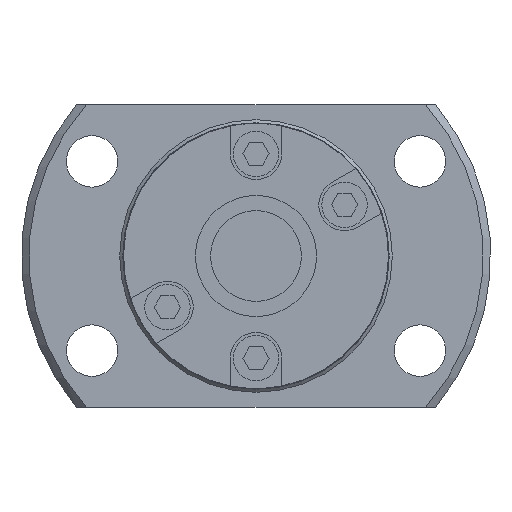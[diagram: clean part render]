
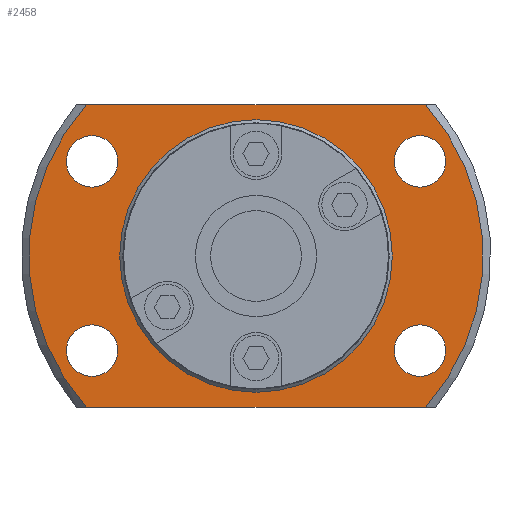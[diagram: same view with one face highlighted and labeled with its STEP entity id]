
A CAD part, left-side view. The second image highlights one B-rep face of the part: STEP entity #2458.
In plain terms, the highlighted planar face has unit normal (-1, 0, 0) as drawn and (1, 0, 0) by its records, which use the part's own axes.
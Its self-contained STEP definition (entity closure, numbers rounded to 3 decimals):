
#128=LINE('',#3848,#354);
#129=LINE('',#3850,#355);
#354=VECTOR('',#3101,1000.);
#355=VECTOR('',#3102,1000.);
#692=ORIENTED_EDGE('',*,*,#1308,.T.);
#693=ORIENTED_EDGE('',*,*,#1282,.T.);
#694=ORIENTED_EDGE('',*,*,#1309,.T.);
#695=ORIENTED_EDGE('',*,*,#1310,.T.);
#696=ORIENTED_EDGE('',*,*,#1311,.F.);
#697=ORIENTED_EDGE('',*,*,#1312,.F.);
#698=ORIENTED_EDGE('',*,*,#1313,.F.);
#699=ORIENTED_EDGE('',*,*,#1314,.F.);
#700=ORIENTED_EDGE('',*,*,#1307,.F.);
#1282=EDGE_CURVE('',#1602,#1604,#1816,.T.);
#1307=EDGE_CURVE('',#1624,#1624,#1829,.T.);
#1308=EDGE_CURVE('',#1625,#1602,#128,.T.);
#1309=EDGE_CURVE('',#1604,#1626,#129,.T.);
#1310=EDGE_CURVE('',#1626,#1625,#1830,.T.);
#1311=EDGE_CURVE('',#1627,#1627,#1831,.T.);
#1312=EDGE_CURVE('',#1628,#1628,#1832,.T.);
#1313=EDGE_CURVE('',#1629,#1629,#1833,.T.);
#1314=EDGE_CURVE('',#1630,#1630,#1834,.T.);
#1602=VERTEX_POINT('',#3778);
#1604=VERTEX_POINT('',#3785);
#1624=VERTEX_POINT('',#3846);
#1625=VERTEX_POINT('',#3849);
#1626=VERTEX_POINT('',#3851);
#1627=VERTEX_POINT('',#3854);
#1628=VERTEX_POINT('',#3856);
#1629=VERTEX_POINT('',#3858);
#1630=VERTEX_POINT('',#3860);
#1816=CIRCLE('',#2677,15.);
#1829=CIRCLE('',#2699,8.85);
#1830=CIRCLE('',#2701,15.);
#1831=CIRCLE('',#2702,1.7);
#1832=CIRCLE('',#2703,1.7);
#1833=CIRCLE('',#2704,1.7);
#1834=CIRCLE('',#2705,1.7);
#1931=EDGE_LOOP('',(#692,#693,#694,#695));
#1932=EDGE_LOOP('',(#696));
#1933=EDGE_LOOP('',(#697));
#1934=EDGE_LOOP('',(#698));
#1935=EDGE_LOOP('',(#699));
#1936=EDGE_LOOP('',(#700));
#2153=FACE_BOUND('',#1931,.T.);
#2154=FACE_BOUND('',#1932,.T.);
#2155=FACE_BOUND('',#1933,.T.);
#2156=FACE_BOUND('',#1934,.T.);
#2157=FACE_BOUND('',#1935,.T.);
#2158=FACE_BOUND('',#1936,.T.);
#2328=PLANE('',#2700);
#2458=ADVANCED_FACE('',(#2153,#2154,#2155,#2156,#2157,#2158),#2328,.T.);
#2677=AXIS2_PLACEMENT_3D('',#3786,#3043,#3044);
#2699=AXIS2_PLACEMENT_3D('',#3845,#3097,#3098);
#2700=AXIS2_PLACEMENT_3D('',#3847,#3099,#3100);
#2701=AXIS2_PLACEMENT_3D('',#3852,#3103,#3104);
#2702=AXIS2_PLACEMENT_3D('',#3853,#3105,#3106);
#2703=AXIS2_PLACEMENT_3D('',#3855,#3107,#3108);
#2704=AXIS2_PLACEMENT_3D('',#3857,#3109,#3110);
#2705=AXIS2_PLACEMENT_3D('',#3859,#3111,#3112);
#3043=DIRECTION('',(1.,0.,0.));
#3044=DIRECTION('',(0.,0.,-1.));
#3097=DIRECTION('',(1.,0.,0.));
#3098=DIRECTION('',(0.,0.,-1.));
#3099=DIRECTION('',(1.,0.,0.));
#3100=DIRECTION('',(0.,0.,-1.));
#3101=DIRECTION('',(0.,-1.,0.));
#3102=DIRECTION('',(0.,1.,0.));
#3103=DIRECTION('',(1.,0.,0.));
#3104=DIRECTION('',(0.,0.,-1.));
#3105=DIRECTION('',(1.,0.,0.));
#3106=DIRECTION('',(0.,0.,-1.));
#3107=DIRECTION('',(1.,0.,0.));
#3108=DIRECTION('',(0.,0.,-1.));
#3109=DIRECTION('',(1.,0.,0.));
#3110=DIRECTION('',(0.,0.,-1.));
#3111=DIRECTION('',(1.,0.,0.));
#3112=DIRECTION('',(0.,0.,-1.));
#3778=CARTESIAN_POINT('',(4.,-11.18,10.));
#3785=CARTESIAN_POINT('',(4.,-11.18,-10.));
#3786=CARTESIAN_POINT('',(4.,0.,0.));
#3845=CARTESIAN_POINT('',(4.,0.,0.));
#3846=CARTESIAN_POINT('',(4.,0.,-8.85));
#3847=CARTESIAN_POINT('',(4.,8.85,0.));
#3848=CARTESIAN_POINT('',(4.,15.5,10.));
#3849=CARTESIAN_POINT('',(4.,11.18,10.));
#3850=CARTESIAN_POINT('',(4.,-15.5,-10.));
#3851=CARTESIAN_POINT('',(4.,11.18,-10.));
#3852=CARTESIAN_POINT('',(4.,0.,0.));
#3853=CARTESIAN_POINT('',(4.,10.825,6.25));
#3854=CARTESIAN_POINT('',(4.,10.825,4.55));
#3855=CARTESIAN_POINT('',(4.,-10.825,6.25));
#3856=CARTESIAN_POINT('',(4.,-10.825,4.55));
#3857=CARTESIAN_POINT('',(4.,-10.825,-6.25));
#3858=CARTESIAN_POINT('',(4.,-10.825,-7.95));
#3859=CARTESIAN_POINT('',(4.,10.825,-6.25));
#3860=CARTESIAN_POINT('',(4.,10.825,-7.95));
